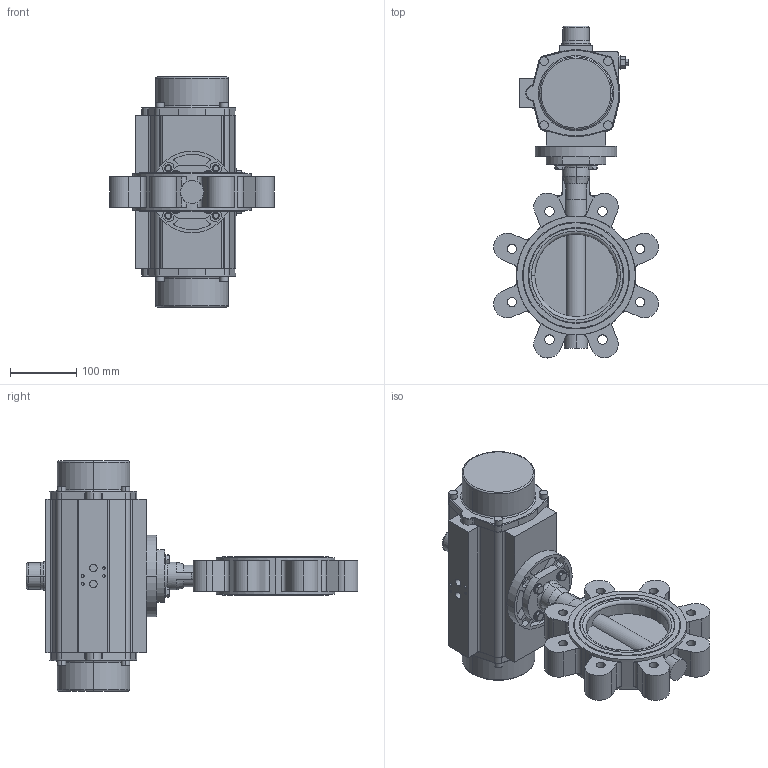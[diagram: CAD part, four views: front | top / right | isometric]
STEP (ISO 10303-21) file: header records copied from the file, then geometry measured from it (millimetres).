
FILE_DESCRIPTION (( 'STEP AP214' ), '1' );
FILE_NAME ('67343.step', '2020-10-23T12:37:51', ( '' ), ( '' ), 'SwSTEP 2.0', 'SolidWorks 2019', '' );
FILE_SCHEMA (( 'AUTOMOTIVE_DESIGN' ));
Length unit declared in the file: millimetre
Products named in the file (8): Achtkantreduktion 22-14 mm; 67336_20x20x3 - L=16; U-Scheibe DIN 125 A_M8; 6kt-Schr DIN 933_M8x45; 66383; 67343; TL20-0125_M01; SR0300-V22_02
Assembly tree (13 placements, depth 2):
  67343
    TL20-0125_M01
    SR0300-V22_02
    U-Scheibe DIN 125 A_M8  x4
    6kt-Schr DIN 933_M8x45  x4
    Achtkantreduktion 22-14 mm
    66383
    67336_20x20x3 - L=16
Bounding box: 249.85 x 502.93 x 348.5 mm (x, y, z)
Volume: 7287850.8 mm3; surface area: 483377.2 mm2
Topology: 15 solids, 15 shells, 789 faces, 1936 edges, 1243 vertices
Faces by surface type: plane 375, cylinder 306, cone 52, torus 46, bspline 10
Entity records: 24496 total; most frequent: CARTESIAN_POINT 4813, DIRECTION 3783, ORIENTED_EDGE 3464, EDGE_CURVE 1732, AXIS2_PLACEMENT_3D 1425, VERTEX_POINT 1123, LINE 933, VECTOR 933
